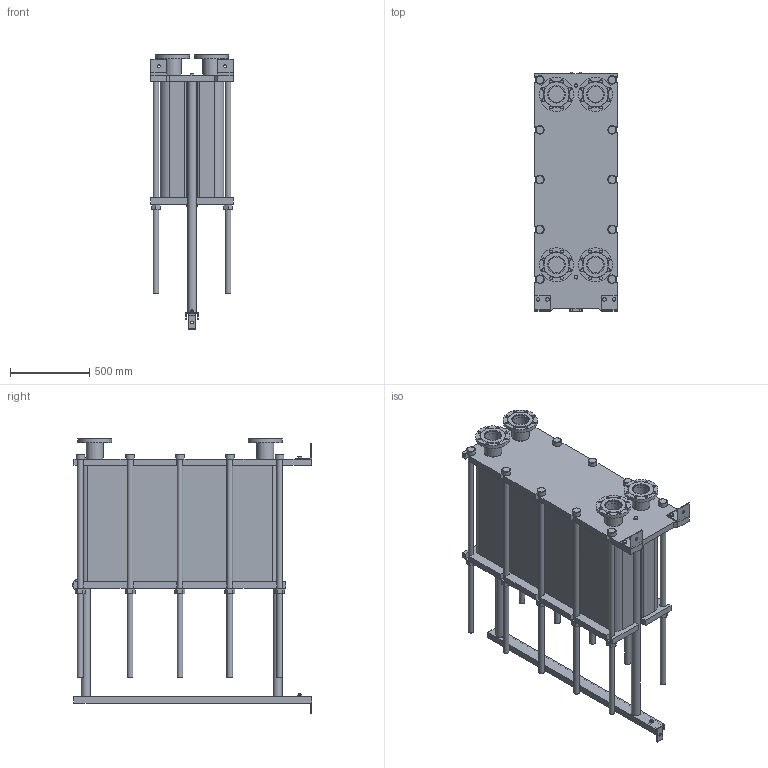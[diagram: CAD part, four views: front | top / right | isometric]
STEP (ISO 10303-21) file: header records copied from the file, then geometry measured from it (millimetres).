
FILE_DESCRIPTION(/* description */ (''),/* implementation_level */ '2;1');
FILE_NAME(/* name */ 'C:\Users\zhuro\Desktop\ENCO\TO\ЭН-04\ЭН-0,5-04-213-1.stp',/* time_stamp */ '2022-06-06T11:04:40+03:00',/* author */ ('zhuro'),/* organization */ (''),/* preprocessor_version */ 'ST-DEVELOPER v18.1',/* originating_system */ 'Autodesk Inventor 2022',/* authorisation */ '');
FILE_SCHEMA (('AUTOMOTIVE_DESIGN { 1 0 10303 214 3 1 1 }'));
Length unit declared in the file: millimetre
Products named in the file (1): ЭН-0,5-04-213-1
Bounding box: 520 x 1510 x 1736.5 mm (x, y, z)
Volume: 444534565.5 mm3; surface area: 10840142.6 mm2
Topology: 45 solids, 45 shells, 668 faces, 1611 edges, 1048 vertices
Faces by surface type: plane 457, cylinder 166, cone 39, torus 6
Full cylindrical faces by diameter (mm): 8 x4, 10 x2, 16 x8, 18 x35, 36 x25, 40 x2, 42 x1, 45 x4, 54 x10, 57 x2, 60 x10, 68 x2, 100 x4, 110 x8, 215 x4
Entity records: 23607 total; most frequent: CARTESIAN_POINT 7348, DIRECTION 3371, ORIENTED_EDGE 3142, EDGE_CURVE 1571, AXIS2_PLACEMENT_3D 1199, VERTEX_POINT 1044, LINE 973, VECTOR 973
